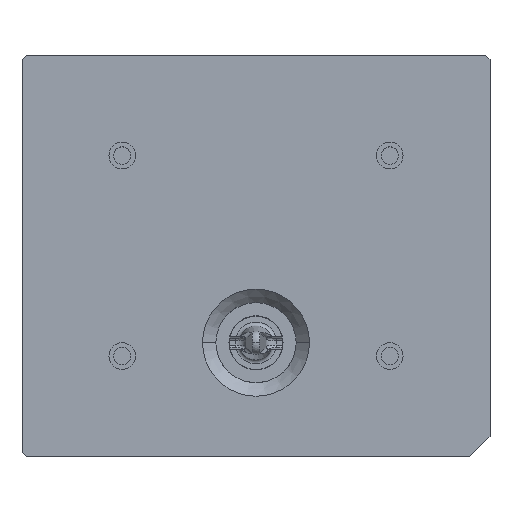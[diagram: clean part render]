
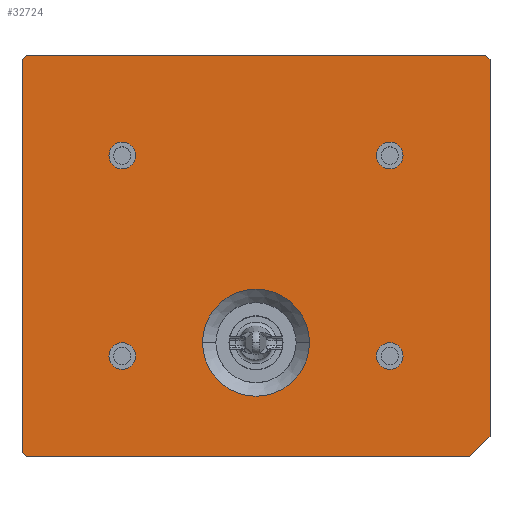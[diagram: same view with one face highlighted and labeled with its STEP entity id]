
A CAD part, top view. The second image highlights one B-rep face of the part: STEP entity #32724.
In plain terms, the highlighted planar face has unit normal (0, 0, 1).
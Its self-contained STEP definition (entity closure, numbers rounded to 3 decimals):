
#31057=DIRECTION('',(0.,1.,0.));
#31058=VECTOR('',#31057,282.);
#31059=CARTESIAN_POINT('',(175.,-135.,80.3));
#31060=LINE('',#31059,#31058);
#31061=DIRECTION('',(0.707,0.707,0.));
#31062=VECTOR('',#31061,21.213);
#31063=CARTESIAN_POINT('',(160.,-150.,80.3));
#31064=LINE('',#31063,#31062);
#31065=DIRECTION('',(1.,0.,0.));
#31066=VECTOR('',#31065,332.);
#31067=CARTESIAN_POINT('',(-172.,-150.,80.3));
#31068=LINE('',#31067,#31066);
#31069=DIRECTION('',(0.707,-0.707,0.));
#31070=VECTOR('',#31069,4.243);
#31071=CARTESIAN_POINT('',(-175.,-147.,80.3));
#31072=LINE('',#31071,#31070);
#31073=DIRECTION('',(0.,-1.,0.));
#31074=VECTOR('',#31073,294.);
#31075=CARTESIAN_POINT('',(-175.,147.,80.3));
#31076=LINE('',#31075,#31074);
#31077=DIRECTION('',(-0.707,-0.707,0.));
#31078=VECTOR('',#31077,4.243);
#31079=CARTESIAN_POINT('',(-172.,150.,80.3));
#31080=LINE('',#31079,#31078);
#31081=DIRECTION('',(-1.,0.,0.));
#31082=VECTOR('',#31081,344.);
#31083=CARTESIAN_POINT('',(172.,150.,80.3));
#31084=LINE('',#31083,#31082);
#31085=DIRECTION('',(-0.707,0.707,0.));
#31086=VECTOR('',#31085,4.243);
#31087=CARTESIAN_POINT('',(175.,147.,80.3));
#31088=LINE('',#31087,#31086);
#31089=CARTESIAN_POINT('',(0.,-65.,80.3));
#31090=DIRECTION('',(0.,0.,-1.));
#31091=DIRECTION('',(1.,0.,0.));
#31092=AXIS2_PLACEMENT_3D('',#31089,#31090,#31091);
#31094=CARTESIAN_POINT('',(0.,-65.,80.3));
#31095=DIRECTION('',(0.,0.,-1.));
#31096=DIRECTION('',(-1.,0.,0.));
#31097=AXIS2_PLACEMENT_3D('',#31094,#31095,#31096);
#31099=CARTESIAN_POINT('',(-100.,75.,80.3));
#31100=DIRECTION('',(0.,0.,1.));
#31101=DIRECTION('',(1.,0.,0.));
#31102=AXIS2_PLACEMENT_3D('',#31099,#31100,#31101);
#31104=CARTESIAN_POINT('',(-100.,75.,80.3));
#31105=DIRECTION('',(0.,0.,1.));
#31106=DIRECTION('',(-1.,0.,0.));
#31107=AXIS2_PLACEMENT_3D('',#31104,#31105,#31106);
#31109=CARTESIAN_POINT('',(100.,75.,80.3));
#31110=DIRECTION('',(0.,0.,1.));
#31111=DIRECTION('',(1.,0.,0.));
#31112=AXIS2_PLACEMENT_3D('',#31109,#31110,#31111);
#31114=CARTESIAN_POINT('',(100.,75.,80.3));
#31115=DIRECTION('',(0.,0.,1.));
#31116=DIRECTION('',(-1.,0.,0.));
#31117=AXIS2_PLACEMENT_3D('',#31114,#31115,#31116);
#31119=CARTESIAN_POINT('',(100.,-75.,80.3));
#31120=DIRECTION('',(0.,0.,1.));
#31121=DIRECTION('',(1.,0.,0.));
#31122=AXIS2_PLACEMENT_3D('',#31119,#31120,#31121);
#31124=CARTESIAN_POINT('',(100.,-75.,80.3));
#31125=DIRECTION('',(0.,0.,1.));
#31126=DIRECTION('',(-1.,0.,0.));
#31127=AXIS2_PLACEMENT_3D('',#31124,#31125,#31126);
#31129=CARTESIAN_POINT('',(-100.,-75.,80.3));
#31130=DIRECTION('',(0.,0.,1.));
#31131=DIRECTION('',(1.,0.,0.));
#31132=AXIS2_PLACEMENT_3D('',#31129,#31130,#31131);
#31134=CARTESIAN_POINT('',(-100.,-75.,80.3));
#31135=DIRECTION('',(0.,0.,1.));
#31136=DIRECTION('',(-1.,0.,0.));
#31137=AXIS2_PLACEMENT_3D('',#31134,#31135,#31136);
#31889=CARTESIAN_POINT('',(175.,-135.,80.3));
#31890=CARTESIAN_POINT('',(175.,147.,80.3));
#31891=VERTEX_POINT('',#31889);
#31892=VERTEX_POINT('',#31890);
#31893=CARTESIAN_POINT('',(172.,150.,80.3));
#31894=VERTEX_POINT('',#31893);
#31895=CARTESIAN_POINT('',(-172.,150.,80.3));
#31896=VERTEX_POINT('',#31895);
#31897=CARTESIAN_POINT('',(-175.,147.,80.3));
#31898=VERTEX_POINT('',#31897);
#31899=CARTESIAN_POINT('',(-175.,-147.,80.3));
#31900=VERTEX_POINT('',#31899);
#31901=CARTESIAN_POINT('',(-172.,-150.,80.3));
#31902=VERTEX_POINT('',#31901);
#31903=CARTESIAN_POINT('',(160.,-150.,80.3));
#31904=VERTEX_POINT('',#31903);
#32029=CARTESIAN_POINT('',(40.,-65.,80.3));
#32030=CARTESIAN_POINT('',(-40.,-65.,80.3));
#32031=VERTEX_POINT('',#32029);
#32032=VERTEX_POINT('',#32030);
#32133=CARTESIAN_POINT('',(-90.,75.,80.3));
#32134=CARTESIAN_POINT('',(-110.,75.,80.3));
#32135=VERTEX_POINT('',#32133);
#32136=VERTEX_POINT('',#32134);
#32137=CARTESIAN_POINT('',(110.,75.,80.3));
#32138=CARTESIAN_POINT('',(90.,75.,80.3));
#32139=VERTEX_POINT('',#32137);
#32140=VERTEX_POINT('',#32138);
#32141=CARTESIAN_POINT('',(110.,-75.,80.3));
#32142=CARTESIAN_POINT('',(90.,-75.,80.3));
#32143=VERTEX_POINT('',#32141);
#32144=VERTEX_POINT('',#32142);
#32145=CARTESIAN_POINT('',(-90.,-75.,80.3));
#32146=CARTESIAN_POINT('',(-110.,-75.,80.3));
#32147=VERTEX_POINT('',#32145);
#32148=VERTEX_POINT('',#32146);
#32674=CARTESIAN_POINT('',(0.,0.,80.3));
#32675=DIRECTION('',(0.,0.,1.));
#32676=DIRECTION('',(1.,0.,0.));
#32677=AXIS2_PLACEMENT_3D('',#32674,#32675,#32676);
#32678=PLANE('',#32677);
#32679=ORIENTED_EDGE('',*,*,#32256,.F.);
#32681=ORIENTED_EDGE('',*,*,#32680,.F.);
#32683=ORIENTED_EDGE('',*,*,#32682,.F.);
#32685=ORIENTED_EDGE('',*,*,#32684,.F.);
#32687=ORIENTED_EDGE('',*,*,#32686,.F.);
#32689=ORIENTED_EDGE('',*,*,#32688,.F.);
#32691=ORIENTED_EDGE('',*,*,#32690,.F.);
#32692=ORIENTED_EDGE('',*,*,#32334,.F.);
#32693=EDGE_LOOP('',(#32679,#32681,#32683,#32685,#32687,#32689,#32691,#32692));
#32694=FACE_OUTER_BOUND('',#32693,.F.);
#32696=ORIENTED_EDGE('',*,*,#32695,.F.);
#32697=ORIENTED_EDGE('',*,*,#32664,.F.);
#32698=EDGE_LOOP('',(#32696,#32697));
#32699=FACE_BOUND('',#32698,.F.);
#32701=ORIENTED_EDGE('',*,*,#32700,.T.);
#32703=ORIENTED_EDGE('',*,*,#32702,.T.);
#32704=EDGE_LOOP('',(#32701,#32703));
#32705=FACE_BOUND('',#32704,.F.);
#32707=ORIENTED_EDGE('',*,*,#32706,.T.);
#32709=ORIENTED_EDGE('',*,*,#32708,.T.);
#32710=EDGE_LOOP('',(#32707,#32709));
#32711=FACE_BOUND('',#32710,.F.);
#32713=ORIENTED_EDGE('',*,*,#32712,.T.);
#32715=ORIENTED_EDGE('',*,*,#32714,.T.);
#32716=EDGE_LOOP('',(#32713,#32715));
#32717=FACE_BOUND('',#32716,.F.);
#32719=ORIENTED_EDGE('',*,*,#32718,.T.);
#32721=ORIENTED_EDGE('',*,*,#32720,.T.);
#32722=EDGE_LOOP('',(#32719,#32721));
#32723=FACE_BOUND('',#32722,.F.);
#32724=ADVANCED_FACE('',(#32694,#32699,#32705,#32711,#32717,#32723),#32678,.T.);
#31093=CIRCLE('',#31092,40.);
#31098=CIRCLE('',#31097,40.);
#31103=CIRCLE('',#31102,10.);
#31108=CIRCLE('',#31107,10.);
#31113=CIRCLE('',#31112,10.);
#31118=CIRCLE('',#31117,10.);
#31123=CIRCLE('',#31122,10.);
#31128=CIRCLE('',#31127,10.);
#31133=CIRCLE('',#31132,10.);
#31138=CIRCLE('',#31137,10.);
#32256=EDGE_CURVE('',#31891,#31892,#31060,.T.);
#32334=EDGE_CURVE('',#31892,#31894,#31088,.T.);
#32664=EDGE_CURVE('',#32032,#32031,#31098,.T.);
#32680=EDGE_CURVE('',#31904,#31891,#31064,.T.);
#32682=EDGE_CURVE('',#31902,#31904,#31068,.T.);
#32684=EDGE_CURVE('',#31900,#31902,#31072,.T.);
#32686=EDGE_CURVE('',#31898,#31900,#31076,.T.);
#32688=EDGE_CURVE('',#31896,#31898,#31080,.T.);
#32690=EDGE_CURVE('',#31894,#31896,#31084,.T.);
#32695=EDGE_CURVE('',#32031,#32032,#31093,.T.);
#32700=EDGE_CURVE('',#32135,#32136,#31103,.T.);
#32702=EDGE_CURVE('',#32136,#32135,#31108,.T.);
#32706=EDGE_CURVE('',#32139,#32140,#31113,.T.);
#32708=EDGE_CURVE('',#32140,#32139,#31118,.T.);
#32712=EDGE_CURVE('',#32143,#32144,#31123,.T.);
#32714=EDGE_CURVE('',#32144,#32143,#31128,.T.);
#32718=EDGE_CURVE('',#32147,#32148,#31133,.T.);
#32720=EDGE_CURVE('',#32148,#32147,#31138,.T.);
